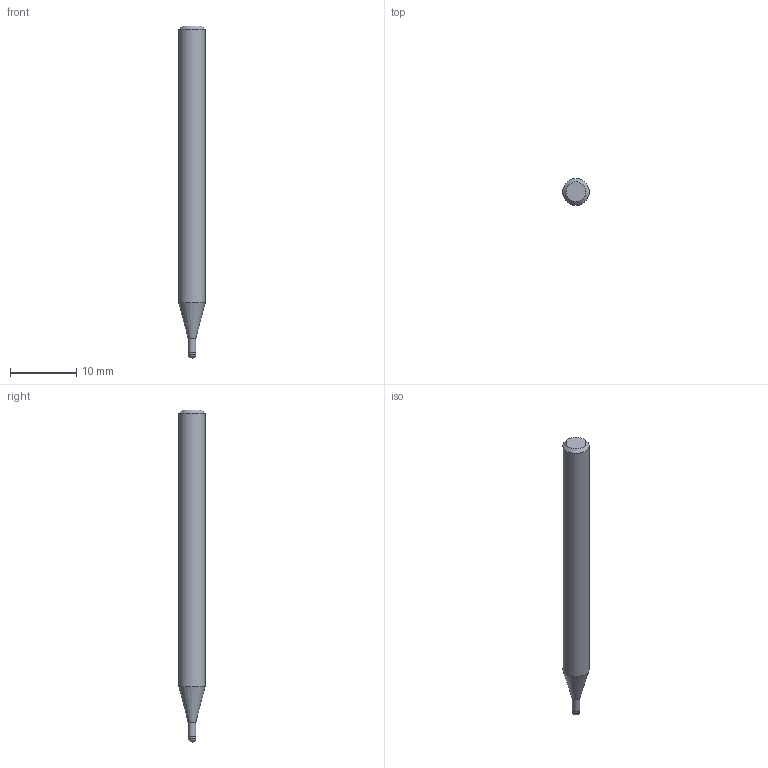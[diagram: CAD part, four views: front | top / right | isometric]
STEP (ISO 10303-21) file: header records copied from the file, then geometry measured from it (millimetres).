
FILE_DESCRIPTION((''),'2;1');
FILE_NAME('C:\Users\nsx150\AppData\Local\Temp\Mastercam 2021\LJSIDMOTM8\TEMP.step','2021-08-03T14:23:07',(''),(''),'STEP Write','Mastercam 2021 ... CNC Software, Inc.','');
FILE_SCHEMA(('AUTOMOTIVE_DESIGN'));
Length unit declared in the file: millimetre
Products named in the file (1): None
Bounding box: 4 x 4 x 50 mm (x, y, z)
Volume: 555.8 mm3; surface area: 590 mm2
Topology: 2 solids, 2 shells, 9 faces, 14 edges, 8 vertices
Faces by surface type: plane 3, cylinder 3, cone 2, sphere 1
Full cylindrical faces by diameter (mm): 1.15 x1, 1.2 x1, 4 x1
Entity records: 211 total; most frequent: DIRECTION 36, CARTESIAN_POINT 25, AXIS2_PLACEMENT_3D 18, ORIENTED_EDGE 14, EDGE_LOOP 14, STYLED_ITEM 12, ADVANCED_FACE 9, FACE_BOUND 8
